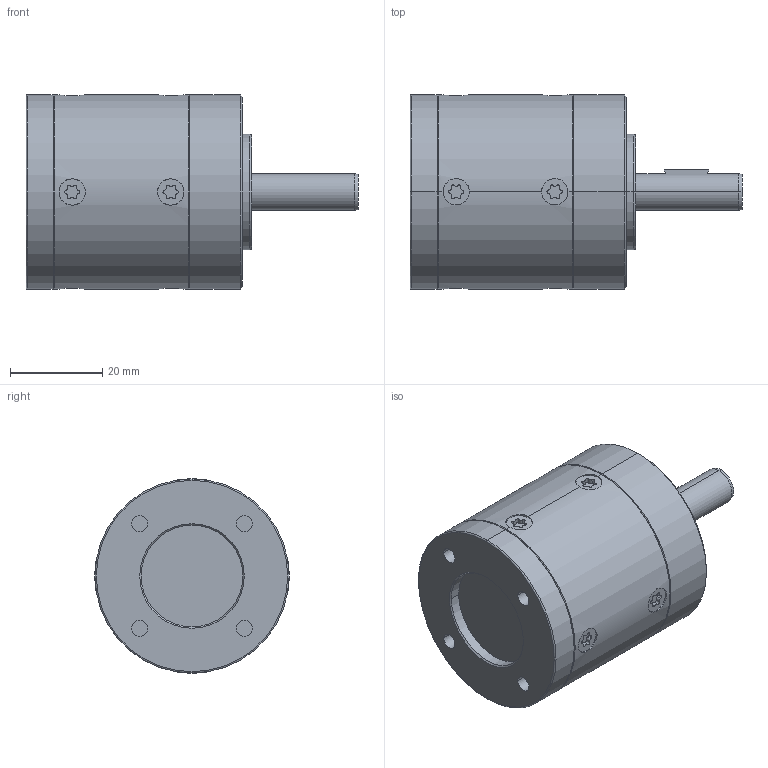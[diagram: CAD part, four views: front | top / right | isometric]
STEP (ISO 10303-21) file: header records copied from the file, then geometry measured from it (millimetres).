
FILE_DESCRIPTION((''),'2;1');
FILE_NAME('1-ST_8X25','2005-08-26T',('Andrej.Schneider'),(''),'PRO/ENGINEER BY PARAMETRIC TECHNOLOGY CORPORATION, 2003490','PRO/ENGINEER BY PARAMETRIC TECHNOLOGY CORPORATION, 2003490','');
FILE_SCHEMA(('AUTOMOTIVE_DESIGN_CC2 { 1 2 10303 214 -1 1 5 2 }'));
Length unit declared in the file: millimetre
Products named in the file (1): 1-ST_8X25
Bounding box: 71.8 x 42 x 42 mm (x, y, z)
Volume: 64963.3 mm3; surface area: 11919.9 mm2
Topology: 1 solids, 9 shells, 252 faces, 628 edges, 398 vertices
Faces by surface type: cylinder 166, cone 48, plane 36, torus 2
Entity records: 9534 total; most frequent: CARTESIAN_POINT 1529, DIRECTION 1472, ORIENTED_EDGE 1192, AXIS2_PLACEMENT_3D 625, EDGE_CURVE 612, VERTEX_POINT 398, CIRCLE 372, EDGE_LOOP 288
